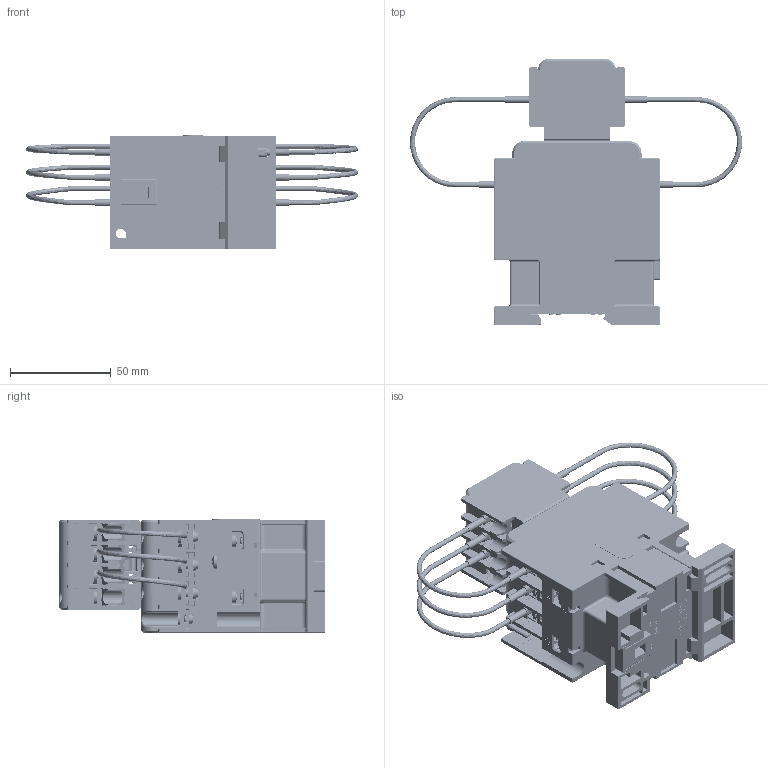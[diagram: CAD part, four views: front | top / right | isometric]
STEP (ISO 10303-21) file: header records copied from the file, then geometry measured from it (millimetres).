
FILE_DESCRIPTION((''),'2;1');
FILE_NAME('CDC19S-32-431','2020-11-04T',('yunfei.yang'),(''),'PRO/ENGINEER BY PARAMETRIC TECHNOLOGY CORPORATION, 2015440','PRO/ENGINEER BY PARAMETRIC TECHNOLOGY CORPORATION, 2015440','');
FILE_SCHEMA(('CONFIG_CONTROL_DESIGN'));
Products named in the file (1): CDC19S-32-431
Bounding box: 164.37 x 131.7 x 56.22 mm (x, y, z)
Volume: 326783.1 mm3; surface area: 127835.7 mm2
Topology: 1 solids, 7 shells, 8696 faces, 23989 edges, 15312 vertices
Faces by surface type: plane 5970, cylinder 1643, extrusion 447, torus 246, bspline 183, cone 145, sphere 62
Entity records: 300362 total; most frequent: CARTESIAN_POINT 81116, ORIENTED_EDGE 47978, DIRECTION 41888, EDGE_CURVE 23989, VECTOR 18118, LINE 17671, VERTEX_POINT 15312, AXIS2_PLACEMENT_3D 11885
